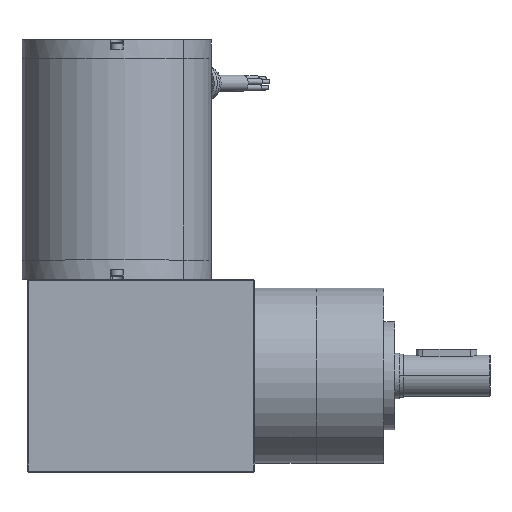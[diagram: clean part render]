
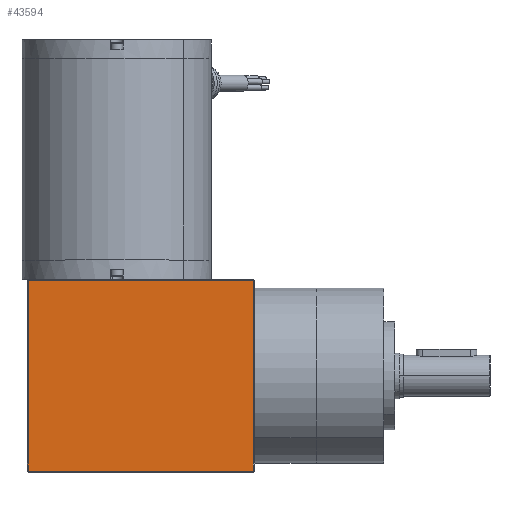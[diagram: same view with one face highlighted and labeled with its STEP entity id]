
A CAD part, top view. The second image highlights one B-rep face of the part: STEP entity #43594.
In plain terms, the highlighted planar face has unit normal (0, 0, 1).
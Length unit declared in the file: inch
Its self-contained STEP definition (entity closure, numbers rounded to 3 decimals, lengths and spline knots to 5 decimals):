
#801 = VERTEX_POINT ( 'NONE', #29530 ) ;
#2846 = CARTESIAN_POINT ( 'NONE',  ( 2.766, 1.72161, 2.67507 ) ) ;
#3140 = ORIENTED_EDGE ( 'NONE', *, *, #50664, .T. ) ;
#4349 = ORIENTED_EDGE ( 'NONE', *, *, #22986, .T. ) ;
#5498 = DIRECTION ( 'NONE',  ( 0., 1., 0. ) ) ;
#6308 = LINE ( 'NONE', #44561, #50826 ) ;
#6890 = CARTESIAN_POINT ( 'NONE',  ( 2.746, 5.20161, 2.67507 ) ) ;
#13349 = VECTOR ( 'NONE', #34593, 39.37008 ) ;
#13424 = DIRECTION ( 'NONE',  ( 1., 0., 0. ) ) ;
#14756 = VERTEX_POINT ( 'NONE', #26117 ) ;
#15199 = ORIENTED_EDGE ( 'NONE', *, *, #20392, .T. ) ;
#15769 = VERTEX_POINT ( 'NONE', #19123 ) ;
#17228 = CARTESIAN_POINT ( 'NONE',  ( 6.871, 1.74161, 2.67507 ) ) ;
#18450 = EDGE_CURVE ( 'NONE', #15769, #14756, #24882, .T. ) ;
#19123 = CARTESIAN_POINT ( 'NONE',  ( 2.766, 1.74161, 2.67507 ) ) ;
#20392 = EDGE_CURVE ( 'NONE', #47597, #15769, #49584, .T. ) ;
#22986 = EDGE_CURVE ( 'NONE', #14756, #801, #6308, .T. ) ;
#24882 = LINE ( 'NONE', #17228, #13349 ) ;
#25375 = VECTOR ( 'NONE', #33123, 39.37008 ) ;
#26117 = CARTESIAN_POINT ( 'NONE',  ( 6.851, 1.74161, 2.67507 ) ) ;
#29530 = CARTESIAN_POINT ( 'NONE',  ( 6.851, 5.20161, 2.67507 ) ) ;
#33123 = DIRECTION ( 'NONE',  ( 0., -1., 0. ) ) ;
#34427 = VECTOR ( 'NONE', #55751, 39.37008 ) ;
#34593 = DIRECTION ( 'NONE',  ( 1., 0., 0. ) ) ;
#38759 = CARTESIAN_POINT ( 'NONE',  ( 4.8085, 3.47161, 2.67507 ) ) ;
#39816 = CARTESIAN_POINT ( 'NONE',  ( 2.766, 5.20161, 2.67507 ) ) ;
#43071 = PLANE ( 'NONE',  #53370 ) ;
#43594 = ADVANCED_FACE ( 'NONE', ( #53693 ), #43071, .T. ) ;
#44561 = CARTESIAN_POINT ( 'NONE',  ( 6.851, 5.22161, 2.67507 ) ) ;
#45059 = EDGE_LOOP ( 'NONE', ( #48738, #4349, #3140, #15199 ) ) ;
#45830 = LINE ( 'NONE', #6890, #34427 ) ;
#47597 = VERTEX_POINT ( 'NONE', #39816 ) ;
#47718 = DIRECTION ( 'NONE',  ( 0., 0., 1. ) ) ;
#48738 = ORIENTED_EDGE ( 'NONE', *, *, #18450, .T. ) ;
#49584 = LINE ( 'NONE', #2846, #25375 ) ;
#50664 = EDGE_CURVE ( 'NONE', #801, #47597, #45830, .T. ) ;
#50826 = VECTOR ( 'NONE', #5498, 39.37008 ) ;
#53370 = AXIS2_PLACEMENT_3D ( 'NONE', #38759, #47718, #13424 ) ;
#53693 = FACE_OUTER_BOUND ( 'NONE', #45059, .T. ) ;
#55751 = DIRECTION ( 'NONE',  ( -1., 0., 0. ) ) ;
